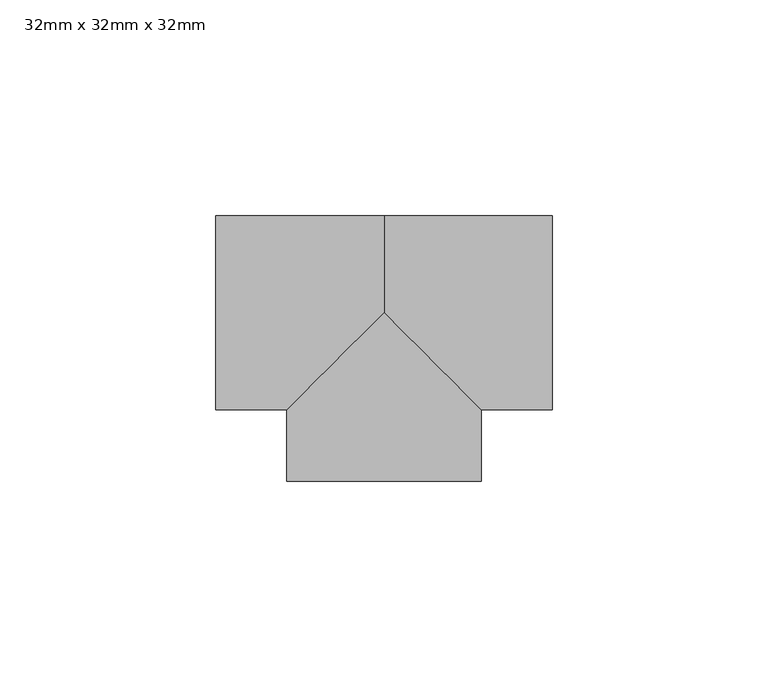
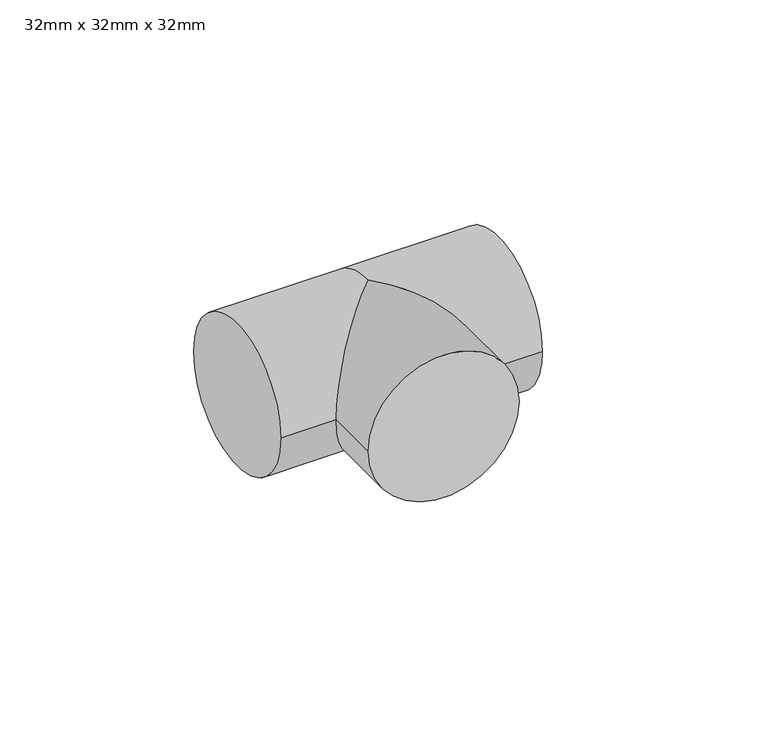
"""IFC4 building model written with IfcOpenShell, lengths in millimetres: pipe fitting geometry, PipeFitting_HTA_CPVC_Tees90° : 32mm x 32mm x 32mm."""

import ifcopenshell
import ifcopenshell.guid

model = None  # the IFC model being written
_history = None  # IfcOwnerHistory: only IFC2X3 demands one
_inside = {}  # id of a spatial element -> (the spatial element, [elements in it])
_under = {}  # id of a project, library or spatial element -> (it, [spatial elements below it])
_declared = {}  # id of a project -> (the project, [libraries it declares])
_typed = {}  # id of a type object -> (the type object, [elements of that type])
_made_of = {}  # id of a material, layer set ... -> (it, [elements and type objects made of it])


def new_model(schema):
    """Start an empty IFC model of exactly this schema.

    Asked for "IFC4X3", IfcOpenShell would pick the latest addendum, in which some entities
    have other attributes; the version numbers below select the first issue.
    IFC2X3 requires an IfcOwnerHistory on every rooted entity: one is made here for all.
    """
    global model, _history
    if schema == "IFC4X3":
        model = ifcopenshell.file(schema_version=(4, 3, 0, 0))
    else:
        model = ifcopenshell.file(schema=schema)
    _inside.clear()
    _under.clear()
    _declared.clear()
    _typed.clear()
    _made_of.clear()
    _history = None
    if model.schema == "IFC2X3":
        org = make("IfcOrganization", Name="unknown")
        user = make(
            "IfcPersonAndOrganization",
            ThePerson=make("IfcPerson", FamilyName="unknown"),
            TheOrganization=org,
        )
        app = make(
            "IfcApplication",
            ApplicationDeveloper=org,
            Version="unknown",
            ApplicationFullName="unknown",
            ApplicationIdentifier="unknown",
        )
        _history = make(
            "IfcOwnerHistory",
            OwningUser=user,
            OwningApplication=app,
            ChangeAction="ADDED",
            CreationDate=0,
        )
    return model


def make(cls, **values):
    """One entity of the class cls with the attributes given. An attribute that is None is left unset."""
    return model.create_entity(
        cls, **{name: value for name, value in values.items() if value is not None}
    )


def rooted(cls, **values):
    """An entity with a GlobalId (a new one), such as an element, a storey or a relation."""
    return make(cls, GlobalId=ifcopenshell.guid.new(), OwnerHistory=_history, **values)


def si_unit(unit_type, name, prefix=None):
    """IfcSIUnit, for example si_unit("LENGTHUNIT", "METRE", prefix="MILLI")."""
    return make("IfcSIUnit", UnitType=unit_type, Prefix=prefix, Name=name)


def assignment(units):
    """IfcUnitAssignment: the units of a project."""
    return None if units is None else make("IfcUnitAssignment", Units=units)


def point(xyz):
    """IfcCartesianPoint."""
    return None if xyz is None else make("IfcCartesianPoint", Coordinates=xyz)


def direction(xyz):
    """IfcDirection."""
    return None if xyz is None else make("IfcDirection", DirectionRatios=xyz)


def frame(location, z_axis=None, x_axis=None):
    """IfcAxis2Placement3D, a coordinate frame: its origin and axes. An axis left out is left unset."""
    return make(
        "IfcAxis2Placement3D",
        Location=point(location),
        Axis=direction(z_axis),
        RefDirection=direction(x_axis),
    )


def origin():
    """The frame at (0, 0, 0) with its axes left unset."""
    return frame((0.0, 0.0, 0.0))


def place(relative_to, where):
    """IfcLocalPlacement: puts the frame where relative to a parent placement (None: the world)."""
    return make(
        "IfcLocalPlacement", PlacementRelTo=relative_to, RelativePlacement=where
    )


def context(
    kind, dimensions, precision=None, world=None, true_north=None, identifier=None
):
    """IfcGeometricRepresentationContext, for example the 3D "Model" context."""
    return make(
        "IfcGeometricRepresentationContext",
        ContextIdentifier=identifier,
        ContextType=kind,
        CoordinateSpaceDimension=dimensions,
        Precision=precision,
        WorldCoordinateSystem=world,
        TrueNorth=true_north,
    )


def project(units=None, contexts=None):
    """IfcProject with its units and contexts."""
    return rooted(
        "IfcProject",
        Name="project",
        RepresentationContexts=contexts,
        UnitsInContext=assignment(units),
    )


def spatial(cls, under=None, at=None, **own):
    """A site, building, storey or space (cls), placed at a placement, below another one or the project."""
    s = rooted(cls, ObjectPlacement=at, **own)
    if under is not None:
        _under.setdefault(under.id(), (under, []))[1].append(s)
    return s


def circle_curve(where, radius):
    """IfcCircle in the frame where."""
    return make("IfcCircle", Position=where, Radius=radius)


def ellipse_curve(where, semi_axis1, semi_axis2):
    """IfcEllipse in the frame where."""
    return make(
        "IfcEllipse", Position=where, SemiAxis1=semi_axis1, SemiAxis2=semi_axis2
    )


def shape(context_of_items, identifier, shape_type, items):
    """IfcShapeRepresentation: the items that make up one representation, for example the "Body"."""
    return make(
        "IfcShapeRepresentation",
        ContextOfItems=context_of_items,
        RepresentationIdentifier=identifier,
        RepresentationType=shape_type,
        Items=items,
    )


def source(mapping_origin, context_of_items, identifier, shape_type, items):
    """IfcRepresentationMap: a shape defined once, which mapped items show again and again."""
    return make(
        "IfcRepresentationMap",
        MappingOrigin=mapping_origin,
        MappedRepresentation=shape(context_of_items, identifier, shape_type, items),
    )


def transform(
    local_origin,
    x_axis=None,
    y_axis=None,
    z_axis=None,
    scale=None,
    scale2=None,
    scale3=None,
    uniform=True,
):
    """IfcCartesianTransformationOperator3D, or its non-uniform kind. x_axis, y_axis, z_axis: its Axis1, 2, 3."""
    if uniform:
        return make(
            "IfcCartesianTransformationOperator3D",
            Axis1=direction(x_axis),
            Axis2=direction(y_axis),
            LocalOrigin=point(local_origin),
            Scale=scale,
            Axis3=direction(z_axis),
        )
    return make(
        "IfcCartesianTransformationOperator3DnonUniform",
        Axis1=direction(x_axis),
        Axis2=direction(y_axis),
        LocalOrigin=point(local_origin),
        Scale=scale,
        Axis3=direction(z_axis),
        Scale2=scale2,
        Scale3=scale3,
    )


def mapped(mapping_source, mapping_target):
    """IfcMappedItem: shows the shape of a source again, moved by a transform."""
    return make(
        "IfcMappedItem", MappingSource=mapping_source, MappingTarget=mapping_target
    )


def made_of(thing, what):
    """Note that an element or type object is made of a material, layer set ...; save() writes the relation."""
    if what is not None:
        _made_of.setdefault(what.id(), (what, []))[1].append(thing)
    return thing


def element(
    cls,
    number,
    at=None,
    inside=None,
    cuts=None,
    type_object=None,
    material=None,
    context=None,
    identifier="Body",
    shape_type=None,
    held_by="IfcProductDefinitionShape",
    body=None,
    shapes=None,
    **own,
):
    """One element of the class cls, such as IfcWall. Its Tag is "e" and its number.

    at: its placement. inside: the storey or other place that contains it. cuts: it is an
    opening in that element (IfcRelVoidsElement). A single representation is given by context,
    identifier, shape_type and body (its items); several are given by shapes. held_by: the class
    of the entity that holds the representations. save() writes the other relations.
    """
    e = rooted(cls, Tag="e%d" % number, ObjectPlacement=at, **own)
    if body is not None:
        shapes = [shape(context, identifier, shape_type, body)]
    if shapes is not None:
        e.Representation = make(held_by, Representations=shapes)
    if inside is not None:
        _inside.setdefault(inside.id(), (inside, []))[1].append(e)
    if cuts is not None:
        rooted(
            "IfcRelVoidsElement", RelatingBuildingElement=cuts, RelatedOpeningElement=e
        )
    if type_object is not None:
        _typed.setdefault(type_object.id(), (type_object, []))[1].append(e)
    return made_of(e, material)


def aggregate(whole, parts):
    """IfcRelAggregates: a whole, such as a stair, and the parts it consists of."""
    return rooted("IfcRelAggregates", RelatingObject=whole, RelatedObjects=parts)


def save(model, path):
    """Write the relations noted so far, then the file.

    IfcRelAggregates (storeys below a building ...), IfcRelContainedInSpatialStructure (elements
    in a storey), IfcRelDefinesByType, IfcRelAssociatesMaterial and IfcRelDeclares: one each for
    every whole, place, type object, material and project.
    """
    for whole, parts in _under.values():
        aggregate(whole, parts)
    for where, things in _inside.values():
        rooted(
            "IfcRelContainedInSpatialStructure",
            RelatedElements=things,
            RelatingStructure=where,
        )
    for kind, things in _typed.values():
        rooted("IfcRelDefinesByType", RelatedObjects=things, RelatingType=kind)
    for what, things in _made_of.values():
        rooted("IfcRelAssociatesMaterial", RelatedObjects=things, RelatingMaterial=what)
    for by, libraries in _declared.values():
        rooted("IfcRelDeclares", RelatingContext=by, RelatedDefinitions=libraries)
    model.write(path)


def plane_surface(at):
    """IfcPlane: the flat surface through the origin of the frame at, square to its z axis."""
    return make("IfcPlane", Position=at)


def cylinder_surface(at, radius):
    """IfcCylindricalSurface: all points at the distance radius from the z axis of the frame at."""
    return make("IfcCylindricalSurface", Position=at, Radius=radius)


def advanced_brep(points, edges, surfaces, faces):
    """IfcAdvancedBrep: a solid bounded by faces that lie on surfaces and meet in shared edges.

    An edge is (start, end): straight between two places in points (the first is 0);
    or (start, end, curve); or (start, end, curve, False) where it runs against its curve.
    A face is (place in surfaces, loops), or (place, loops, False) where it looks against
    its surface's normal. A loop lists edges by number (the first is 1), with a minus sign
    where the edge is run from its end to its start. The first loop is the outer one.
    """
    corners = [point(p) for p in points]
    vertices = [make("IfcVertexPoint", VertexGeometry=c) for c in corners]
    made = []
    for start, end, *more in edges:
        made.append(
            make(
                "IfcEdgeCurve",
                EdgeStart=vertices[start],
                EdgeEnd=vertices[end],
                EdgeGeometry=more[0] if more else make("IfcPolyline", Points=[corners[start], corners[end]]),
                SameSense=more[1] if len(more) > 1 else True,
            )
        )
    hull = []
    for where, loops, *sense in faces:
        bounds = []
        for j, loop in enumerate(loops):
            ring = [make("IfcOrientedEdge", EdgeElement=made[abs(k) - 1], Orientation=k > 0) for k in loop]
            bounds.append(
                make(
                    "IfcFaceOuterBound" if j == 0 else "IfcFaceBound",
                    Bound=make("IfcEdgeLoop", EdgeList=ring),
                    Orientation=True,
                )
            )
        hull.append(make("IfcAdvancedFace", Bounds=bounds, FaceSurface=surfaces[where], SameSense=sense[0] if sense else True))
    return make("IfcAdvancedBrep", Outer=make("IfcClosedShell", CfsFaces=hull))


def pipe_fitting_32mm_x_32mm_x_32mm_a3ea182f(model_context):
    return source(origin(), model_context, "Body", "AdvancedBrep", [
        advanced_brep(
        [(-22.5, -39.0, 0.0), (22.5, -39.0, 0.0), (22.5, -22.5, 0.0), (0.0, 0.0, 22.5), (-22.5, -22.5, 0.0), (0.0, 0.0, -22.5), (-39.0, -22.5, 0.0), (-39.0, 22.5, 0.0), (0.0, 22.5, 0.0), (39.0, -22.5, 0.0), (39.0, 22.5, 0.0)],
        [
            (0, 1, circle_curve(frame((0.0, -39.0, 0.0), z_axis=(0.0, -1.0, 0.0), x_axis=(1.0, 0.0, 0.0)), 22.5)),
            (1, 0, circle_curve(frame((0.0, -39.0, 0.0), z_axis=(0.0, -1.0, 0.0), x_axis=(1.0, 0.0, 0.0)), 22.5)),
            (1, 2),
            (2, 3, ellipse_curve(frame((0.0, 0.0, 0.0), z_axis=(-0.7071067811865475, -0.7071067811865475, 0.0), x_axis=(-0.7071067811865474, 0.7071067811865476, 0.0)), 31.8198052, 22.5)),
            (3, 4, ellipse_curve(frame((0.0, 0.0, 0.0), z_axis=(0.7071067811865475, -0.7071067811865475, 0.0), x_axis=(0.7071067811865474, 0.7071067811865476, 0.0)), 31.8198052, 22.5)),
            (4, 0),
            (4, 5, ellipse_curve(frame((0.0, 0.0, 0.0), z_axis=(0.7071067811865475, -0.7071067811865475, 0.0), x_axis=(0.7071067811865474, 0.7071067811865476, 0.0)), 31.8198052, 22.5)),
            (5, 2, ellipse_curve(frame((0.0, 0.0, 0.0), z_axis=(-0.7071067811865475, -0.7071067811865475, 0.0), x_axis=(-0.7071067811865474, 0.7071067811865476, 0.0)), 31.8198052, 22.5)),
            (6, 7, circle_curve(frame((-39.0, 0.0, 0.0), z_axis=(-1.0, 0.0, 0.0), x_axis=(0.0, 1.0, 0.0)), 22.5)),
            (7, 6, circle_curve(frame((-39.0, 0.0, 0.0), z_axis=(-1.0, 0.0, 0.0), x_axis=(0.0, 1.0, 0.0)), 22.5)),
            (6, 4),
            (3, 8, circle_curve(frame((0.0, 0.0, 0.0), z_axis=(-1.0, 0.0, 0.0), x_axis=(0.0, 1.0, 0.0)), 22.5)),
            (8, 7),
            (8, 5, circle_curve(frame((0.0, 0.0, 0.0), z_axis=(-1.0, 0.0, 0.0), x_axis=(0.0, 1.0, 0.0)), 22.5)),
            (9, 10, circle_curve(frame((39.0, 0.0, 0.0), z_axis=(1.0, 0.0, 0.0), x_axis=(0.0, 1.0, 0.0)), 22.5)),
            (10, 9, circle_curve(frame((39.0, 0.0, 0.0), z_axis=(1.0, 0.0, 0.0), x_axis=(0.0, 1.0, 0.0)), 22.5)),
            (10, 8),
            (2, 9),
        ],
        [
            plane_surface(frame((0.0, -39.0, 0.0), z_axis=(0.0, -1.0, 0.0), x_axis=(0.0, 0.0, 1.0))),
            cylinder_surface(frame((0.0, 0.0, 0.0), z_axis=(0.0, 1.0, 0.0), x_axis=(1.0, 0.0, 0.0)), 22.5),
            plane_surface(frame((-39.0, 0.0, 0.0), z_axis=(-1.0, 0.0, 0.0), x_axis=(0.0, 0.0, 1.0))),
            cylinder_surface(frame((-39.0, 0.0, 0.0), z_axis=(-1.0, 0.0, 0.0), x_axis=(0.0, 1.0, 0.0)), 22.5),
            plane_surface(frame((39.0, 0.0, 0.0), z_axis=(1.0, 0.0, 0.0), x_axis=(0.0, 0.0, 1.0))),
            cylinder_surface(frame((0.0, 0.0, 0.0), z_axis=(-1.0, 0.0, 0.0), x_axis=(0.0, 1.0, 0.0)), 22.5),
        ],
        [
            (0, [[1, 2]]),
            (1, [[-2, 3, 4, 5, 6]]),
            (1, [[-1, -6, 7, 8, -3]]),
            (2, [[9, 10]]),
            (3, [[-9, 11, -5, 12, 13]]),
            (3, [[-10, -13, 14, -7, -11]]),
            (4, [[15, 16]]),
            (5, [[-16, 17, -12, -4, 18]]),
            (5, [[-15, -18, -8, -14, -17]]),
        ],
    ),
    ])


if __name__ == "__main__":
    model = new_model("IFC4")
    model_context = context("Model", 3, world=origin())
    ifc_project = project(units=[si_unit("LENGTHUNIT", "METRE", prefix="MILLI")], contexts=[model_context])
    site = spatial("IfcSite", under=ifc_project)
    building = spatial("IfcBuilding", under=site)
    placement = place(None, origin())
    pipe_fitting_32mm_x_32mm_x_32mm_shape = pipe_fitting_32mm_x_32mm_x_32mm_a3ea182f(model_context)
    element("IfcPipeFitting", 1, ObjectType="PipeFitting_HTA_CPVC_Tees90° : 32mm x 32mm x 32mm", at=placement, inside=building, context=model_context, shape_type="MappedRepresentation", body=[
        mapped(pipe_fitting_32mm_x_32mm_x_32mm_shape, transform((0.0, 0.0, 0.0), x_axis=(1.0, 0.0, 0.0), y_axis=(0.0, 1.0, 0.0), z_axis=(0.0, 0.0, 1.0))),
    ])
    save(model, "model.ifc")
